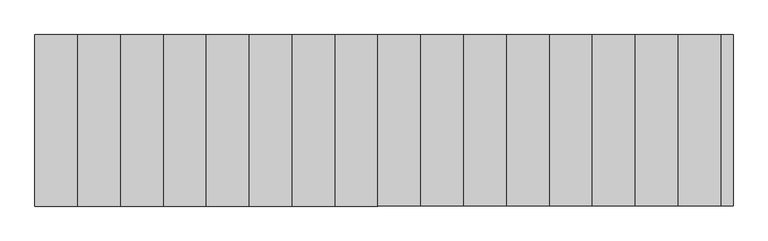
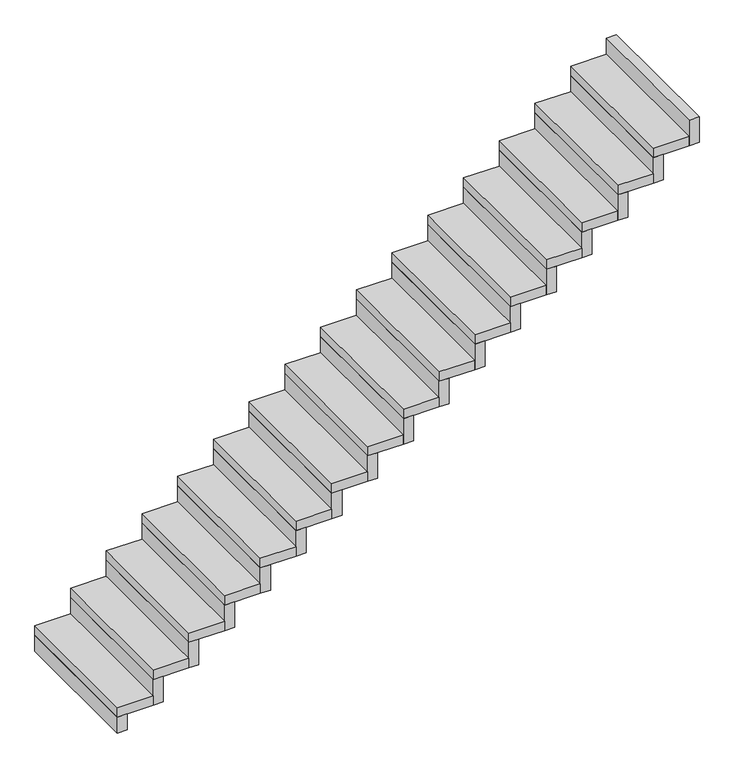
"""IFC4 building model written with IfcOpenShell, lengths in millimetres: stair flight geometry, PLISSADA 7CM."""

from ifc_helpers import new_model, si_unit, frame, origin, place, context, project, spatial, polyline, outline, extrude, source, transform, mapped, element, save


def stair_flight_7ba0d2e9(model_context):
    return source(origin(), model_context, "Body", "SweptSolid", [
        extrude(outline(polyline([(-7481.5118355, 1596.0881727), (-7551.5118355, 1596.0881727), (-7551.5118355, 2596.0881727), (-7481.5118355, 2596.0881727), (-7481.5118355, 1596.0881727)])), frame((0.0, 0.0, 100.0), z_axis=(0.0, 0.0, 1.0), x_axis=(1.0, 0.0, 0.0)), (0.0, 0.0, 1.0), 118.2352941),
        extrude(outline(polyline([(-7301.5118355, 2596.0881727), (-7301.5118355, 1596.0881727), (-7551.5118355, 1596.0881727), (-7551.5118355, 2596.0881727), (-7301.5118355, 2596.0881727)])), frame((0.0, 0.0, 218.2352941), z_axis=(0.0, 0.0, 1.0), x_axis=(1.0, 0.0, 0.0)), (0.0, 0.0, 1.0), 70.0),
        extrude(outline(polyline([(-7231.5118355, 1596.0881727), (-7301.5118355, 1596.0881727), (-7301.5118355, 2596.0881727), (-7231.5118355, 2596.0881727), (-7231.5118355, 1596.0881727)])), frame((0.0, 0.0, 218.2352941), z_axis=(0.0, 0.0, 1.0), x_axis=(1.0, 0.0, 0.0)), (0.0, 0.0, 1.0), 188.2352941),
        extrude(outline(polyline([(-7051.5118355, 2596.0881727), (-7051.5118355, 1596.0881727), (-7301.5118355, 1596.0881727), (-7301.5118355, 2596.0881727), (-7051.5118355, 2596.0881727)])), frame((0.0, 0.0, 406.4705882), z_axis=(0.0, 0.0, 1.0), x_axis=(1.0, 0.0, 0.0)), (0.0, 0.0, 1.0), 70.0),
        extrude(outline(polyline([(-6981.5118355, 1596.0881727), (-7051.5118355, 1596.0881727), (-7051.5118355, 2596.0881727), (-6981.5118355, 2596.0881727), (-6981.5118355, 1596.0881727)])), frame((0.0, 0.0, 406.4705882), z_axis=(0.0, 0.0, 1.0), x_axis=(1.0, 0.0, 0.0)), (0.0, 0.0, 1.0), 188.2352941),
        extrude(outline(polyline([(-6801.5118355, 2596.0881727), (-6801.5118355, 1596.0881727), (-7051.5118355, 1596.0881727), (-7051.5118355, 2596.0881727), (-6801.5118355, 2596.0881727)])), frame((0.0, 0.0, 594.7058824), z_axis=(0.0, 0.0, 1.0), x_axis=(1.0, 0.0, 0.0)), (0.0, 0.0, 1.0), 70.0),
        extrude(outline(polyline([(-6731.5118355, 1596.0881727), (-6801.5118355, 1596.0881727), (-6801.5118355, 2596.0881727), (-6731.5118355, 2596.0881727), (-6731.5118355, 1596.0881727)])), frame((0.0, 0.0, 594.7058824), z_axis=(0.0, 0.0, 1.0), x_axis=(1.0, 0.0, 0.0)), (0.0, 0.0, 1.0), 188.2352941),
        extrude(outline(polyline([(-6551.5118355, 2596.0881727), (-6551.5118355, 1596.0881727), (-6801.5118355, 1596.0881727), (-6801.5118355, 2596.0881727), (-6551.5118355, 2596.0881727)])), frame((0.0, 0.0, 782.9411765), z_axis=(0.0, 0.0, 1.0), x_axis=(1.0, 0.0, 0.0)), (0.0, 0.0, 1.0), 70.0),
        extrude(outline(polyline([(-6481.5118355, 1596.0881727), (-6551.5118355, 1596.0881727), (-6551.5118355, 2596.0881727), (-6481.5118355, 2596.0881727), (-6481.5118355, 1596.0881727)])), frame((0.0, 0.0, 782.9411765), z_axis=(0.0, 0.0, 1.0), x_axis=(1.0, 0.0, 0.0)), (0.0, 0.0, 1.0), 188.2352941),
        extrude(outline(polyline([(-6301.5118355, 2596.0881727), (-6301.5118355, 1596.0881727), (-6551.5118355, 1596.0881727), (-6551.5118355, 2596.0881727), (-6301.5118355, 2596.0881727)])), frame((0.0, 0.0, 971.1764706), z_axis=(0.0, 0.0, 1.0), x_axis=(1.0, 0.0, 0.0)), (0.0, 0.0, 1.0), 70.0),
        extrude(outline(polyline([(-6231.5118355, 1596.0881727), (-6301.5118355, 1596.0881727), (-6301.5118355, 2596.0881727), (-6231.5118355, 2596.0881727), (-6231.5118355, 1596.0881727)])), frame((0.0, 0.0, 971.1764706), z_axis=(0.0, 0.0, 1.0), x_axis=(1.0, 0.0, 0.0)), (0.0, 0.0, 1.0), 188.2352941),
        extrude(outline(polyline([(-6051.5118355, 2596.0881727), (-6051.5118355, 1596.0881727), (-6301.5118355, 1596.0881727), (-6301.5118355, 2596.0881727), (-6051.5118355, 2596.0881727)])), frame((0.0, 0.0, 1159.4117647), z_axis=(0.0, 0.0, 1.0), x_axis=(1.0, 0.0, 0.0)), (0.0, 0.0, 1.0), 70.0),
        extrude(outline(polyline([(-5981.5118355, 1596.0881727), (-6051.5118355, 1596.0881727), (-6051.5118355, 2596.0881727), (-5981.5118355, 2596.0881727), (-5981.5118355, 1596.0881727)])), frame((0.0, 0.0, 1159.4117647), z_axis=(0.0, 0.0, 1.0), x_axis=(1.0, 0.0, 0.0)), (0.0, 0.0, 1.0), 188.2352941),
        extrude(outline(polyline([(-5801.5118355, 2596.0881727), (-5801.5118355, 1596.0881727), (-6051.5118355, 1596.0881727), (-6051.5118355, 2596.0881727), (-5801.5118355, 2596.0881727)])), frame((0.0, 0.0, 1347.6470588), z_axis=(0.0, 0.0, 1.0), x_axis=(1.0, 0.0, 0.0)), (0.0, 0.0, 1.0), 70.0),
        extrude(outline(polyline([(-5731.5118355, 1596.0881727), (-5801.5118355, 1596.0881727), (-5801.5118355, 2596.0881727), (-5731.5118355, 2596.0881727), (-5731.5118355, 1596.0881727)])), frame((0.0, 0.0, 1347.6470588), z_axis=(0.0, 0.0, 1.0), x_axis=(1.0, 0.0, 0.0)), (0.0, 0.0, 1.0), 188.2352941),
        extrude(outline(polyline([(-5551.5118355, 2596.0881727), (-5551.5118355, 1596.0881727), (-5801.5118355, 1596.0881727), (-5801.5118355, 2596.0881727), (-5551.5118355, 2596.0881727)])), frame((0.0, 0.0, 1535.8823529), z_axis=(0.0, 0.0, 1.0), x_axis=(1.0, 0.0, 0.0)), (0.0, 0.0, 1.0), 70.0),
        extrude(outline(polyline([(-5481.5118355, 1596.0881727), (-5551.5118355, 1596.0881727), (-5551.5118355, 2596.0881727), (-5481.5118355, 2596.0881727), (-5481.5118355, 1596.0881727)])), frame((0.0, 0.0, 1535.8823529), z_axis=(0.0, 0.0, 1.0), x_axis=(1.0, 0.0, 0.0)), (0.0, 0.0, 1.0), 188.2352941),
        extrude(outline(polyline([(-5301.5118355, 2596.0881727), (-5301.5118355, 1596.0881727), (-5551.5118355, 1596.0881727), (-5551.5118355, 2596.0881727), (-5301.5118355, 2596.0881727)])), frame((0.0, 0.0, 1724.1176471), z_axis=(0.0, 0.0, 1.0), x_axis=(1.0, 0.0, 0.0)), (0.0, 0.0, 1.0), 70.0),
        extrude(outline(polyline([(-5231.5118355, 1596.0881727), (-5301.5118355, 1596.0881727), (-5301.5118355, 2596.0881727), (-5231.5118355, 2596.0881727), (-5231.5118355, 1596.0881727)])), frame((0.0, 0.0, 1724.1176471), z_axis=(0.0, 0.0, 1.0), x_axis=(1.0, 0.0, 0.0)), (0.0, 0.0, 1.0), 188.2352941),
        extrude(outline(polyline([(-5051.5118355, 2596.0881727), (-5051.5118355, 1596.0881727), (-5301.5118355, 1596.0881727), (-5301.5118355, 2596.0881727), (-5051.5118355, 2596.0881727)])), frame((0.0, 0.0, 1912.3529412), z_axis=(0.0, 0.0, 1.0), x_axis=(1.0, 0.0, 0.0)), (0.0, 0.0, 1.0), 70.0),
        extrude(outline(polyline([(-4981.5118355, 1596.0881727), (-5051.5118355, 1596.0881727), (-5051.5118355, 2596.0881727), (-4981.5118355, 2596.0881727), (-4981.5118355, 1596.0881727)])), frame((0.0, 0.0, 1912.3529412), z_axis=(0.0, 0.0, 1.0), x_axis=(1.0, 0.0, 0.0)), (0.0, 0.0, 1.0), 188.2352941),
        extrude(outline(polyline([(-4801.5118355, 2596.0881727), (-4801.5118355, 1596.0881727), (-5051.5118355, 1596.0881727), (-5051.5118355, 2596.0881727), (-4801.5118355, 2596.0881727)])), frame((0.0, 0.0, 2100.5882353), z_axis=(0.0, 0.0, 1.0), x_axis=(1.0, 0.0, 0.0)), (0.0, 0.0, 1.0), 70.0),
        extrude(outline(polyline([(-4731.5118355, 1596.0881727), (-4801.5118355, 1596.0881727), (-4801.5118355, 2596.0881727), (-4731.5118355, 2596.0881727), (-4731.5118355, 1596.0881727)])), frame((0.0, 0.0, 2100.5882353), z_axis=(0.0, 0.0, 1.0), x_axis=(1.0, 0.0, 0.0)), (0.0, 0.0, 1.0), 188.2352941),
        extrude(outline(polyline([(-4551.5118355, 2596.0881727), (-4551.5118355, 1596.0881727), (-4801.5118355, 1596.0881727), (-4801.5118355, 2596.0881727), (-4551.5118355, 2596.0881727)])), frame((0.0, 0.0, 2288.8235294), z_axis=(0.0, 0.0, 1.0), x_axis=(1.0, 0.0, 0.0)), (0.0, 0.0, 1.0), 70.0),
        extrude(outline(polyline([(-4481.5118355, 1596.0881727), (-4551.5118355, 1596.0881727), (-4551.5118355, 2596.0881727), (-4481.5118355, 2596.0881727), (-4481.5118355, 1596.0881727)])), frame((0.0, 0.0, 2288.8235294), z_axis=(0.0, 0.0, 1.0), x_axis=(1.0, 0.0, 0.0)), (0.0, 0.0, 1.0), 188.2352941),
        extrude(outline(polyline([(-4301.5118355, 2596.0881727), (-4301.5118355, 1596.0881727), (-4551.5118355, 1596.0881727), (-4551.5118355, 2596.0881727), (-4301.5118355, 2596.0881727)])), frame((0.0, 0.0, 2477.0588235), z_axis=(0.0, 0.0, 1.0), x_axis=(1.0, 0.0, 0.0)), (0.0, 0.0, 1.0), 70.0),
        extrude(outline(polyline([(-4231.5118355, 1596.0881727), (-4301.5118355, 1596.0881727), (-4301.5118355, 2596.0881727), (-4231.5118355, 2596.0881727), (-4231.5118355, 1596.0881727)])), frame((0.0, 0.0, 2477.0588235), z_axis=(0.0, 0.0, 1.0), x_axis=(1.0, 0.0, 0.0)), (0.0, 0.0, 1.0), 188.2352941),
        extrude(outline(polyline([(-4051.5118355, 2596.0881727), (-4051.5118355, 1596.0881727), (-4301.5118355, 1596.0881727), (-4301.5118355, 2596.0881727), (-4051.5118355, 2596.0881727)])), frame((0.0, 0.0, 2665.2941176), z_axis=(0.0, 0.0, 1.0), x_axis=(1.0, 0.0, 0.0)), (0.0, 0.0, 1.0), 70.0),
        extrude(outline(polyline([(-3981.5118355, 1596.0881727), (-4051.5118355, 1596.0881727), (-4051.5118355, 2596.0881727), (-3981.5118355, 2596.0881727), (-3981.5118355, 1596.0881727)])), frame((0.0, 0.0, 2665.2941176), z_axis=(0.0, 0.0, 1.0), x_axis=(1.0, 0.0, 0.0)), (0.0, 0.0, 1.0), 188.2352941),
        extrude(outline(polyline([(-3801.5118355, 2596.0881727), (-3801.5118355, 1596.0881727), (-4051.5118355, 1596.0881727), (-4051.5118355, 2596.0881727), (-3801.5118355, 2596.0881727)])), frame((0.0, 0.0, 2853.5294118), z_axis=(0.0, 0.0, 1.0), x_axis=(1.0, 0.0, 0.0)), (0.0, 0.0, 1.0), 70.0),
        extrude(outline(polyline([(-3731.5118355, 1596.0881727), (-3801.5118355, 1596.0881727), (-3801.5118355, 2596.0881727), (-3731.5118355, 2596.0881727), (-3731.5118355, 1596.0881727)])), frame((0.0, 0.0, 2853.5294118), z_axis=(0.0, 0.0, 1.0), x_axis=(1.0, 0.0, 0.0)), (0.0, 0.0, 1.0), 188.2352941),
        extrude(outline(polyline([(-3481.5118355, 1596.0881727), (-3551.5118355, 1596.0881727), (-3551.5118355, 2596.0881727), (-3481.5118355, 2596.0881727), (-3481.5118355, 1596.0881727)])), frame((0.0, 0.0, 3041.7647059), z_axis=(0.0, 0.0, 1.0), x_axis=(1.0, 0.0, 0.0)), (0.0, 0.0, 1.0), 188.2352941),
        extrude(outline(polyline([(-3551.5118355, 2596.0881727), (-3551.5118355, 1596.0881727), (-3801.5118355, 1596.0881727), (-3801.5118355, 2596.0881727), (-3551.5118355, 2596.0881727)])), frame((0.0, 0.0, 3041.7647059), z_axis=(0.0, 0.0, 1.0), x_axis=(1.0, 0.0, 0.0)), (0.0, 0.0, 1.0), 70.0),
    ])


if __name__ == "__main__":
    model = new_model("IFC4")
    model_context = context("Model", 3, world=origin())
    ifc_project = project(units=[si_unit("LENGTHUNIT", "METRE", prefix="MILLI")], contexts=[model_context])
    site = spatial("IfcSite", under=ifc_project)
    building = spatial("IfcBuilding", under=site)
    placement = place(None, origin())
    stair_flight_shape = stair_flight_7ba0d2e9(model_context)
    element("IfcStairFlight", 1, ObjectType="PLISSADA 7CM", at=placement, inside=building, context=model_context, shape_type="MappedRepresentation", body=[
        mapped(stair_flight_shape, transform((0.0, 0.0, 0.0), x_axis=(1.0, 0.0, 0.0), y_axis=(0.0, 1.0, 0.0), z_axis=(0.0, 0.0, 1.0))),
    ])
    save(model, "model.ifc")
